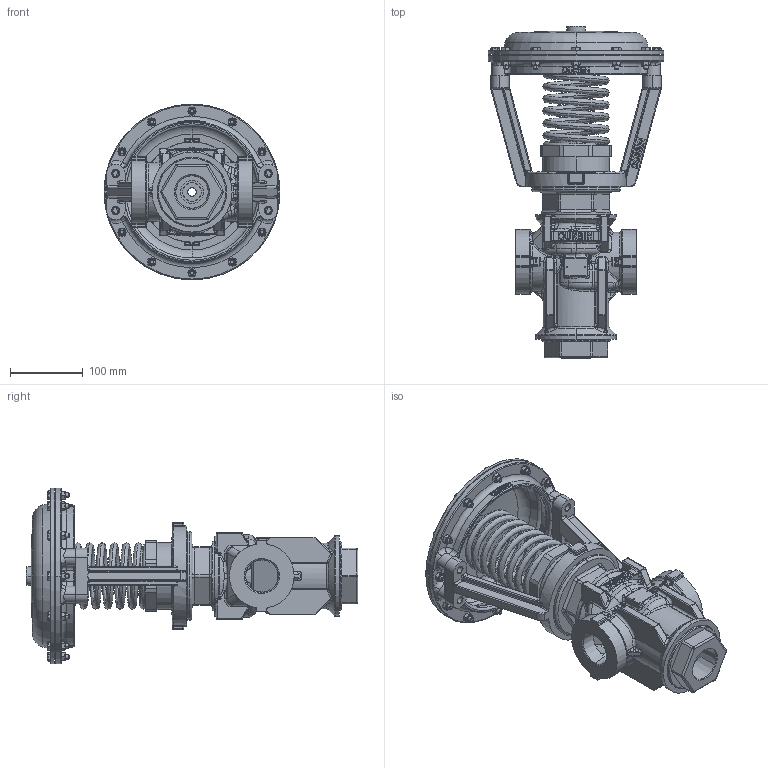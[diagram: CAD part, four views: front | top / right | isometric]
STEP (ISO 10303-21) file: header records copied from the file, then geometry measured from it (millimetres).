
FILE_DESCRIPTION (( 'STEP AP203' ), '1' );
FILE_NAME ('1.50-2.00 3W SM NPT SC500-STEP.STEP', '2018-11-07T15:25:11', ( '' ), ( '' ), 'SwSTEP 2.0', 'SolidWorks 2012', '' );
FILE_SCHEMA (( 'CONFIG_CONTROL_DESIGN' ));
Length unit declared in the file: inch
Products named in the file (13): H096-11; H060-03; D293-054DR; C293-030DR; D771; C293-030DM; C893-022D-SS; C563-022D-SS; D283-100D-SS; C213-181D-SS; C093-150D-SS; C013-007D-SS; 1.50-2.00 3W SM NPT SC500-STEP
Assembly tree (34 placements, depth 3):
  1.50-2.00 3W SM NPT SC500-STEP
    C013-007D-SS
    C093-150D-SS
    C213-181D-SS
    D283-100D-SS
    C563-022D-SS
    C893-022D-SS
    C293-030DR
      C293-030DM
      D771
    D293-054DR
    H060-03  x12
    H096-11  x12
Bounding box: 241.81 x 456.34 x 241.81 mm (x, y, z)
Volume: 2546673.8 mm3; surface area: 683068.1 mm2
Topology: 33 solids, 33 shells, 4239 faces, 9832 edges, 5667 vertices
Faces by surface type: plane 1045, cylinder 965, bspline 912, cone 487, sphere 462, torus 368
Entity records: 136748 total; most frequent: CARTESIAN_POINT 68247, ORIENTED_EDGE 14728, DIRECTION 12847, EDGE_CURVE 7364, AXIS2_PLACEMENT_3D 5163, VERTEX_POINT 4457, EDGE_LOOP 3271, FACE_OUTER_BOUND 3051
